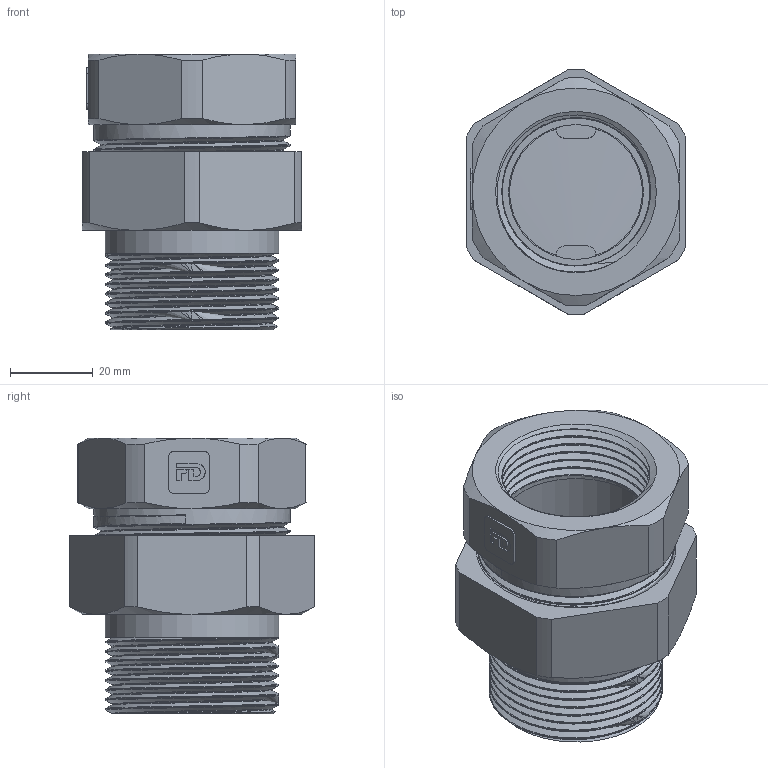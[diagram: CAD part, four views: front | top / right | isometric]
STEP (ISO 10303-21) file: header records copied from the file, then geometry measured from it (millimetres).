
FILE_DESCRIPTION(/* description */ (''),/* implementation_level */ '2;1');
FILE_NAME(/* name */ 'C:\Users\Doom\Desktop\Фадотех\Резьба\SN04 18.03.2020\SN04 18.03.2020.stp',/* time_stamp */ '2022-01-17T01:04:27+02:00',/* author */ ('Doom'),/* organization */ (''),/* preprocessor_version */ 'ST-DEVELOPER v18',/* originating_system */ 'Autodesk Inventor 2020',/* authorisation */ '');
FILE_SCHEMA (('AUTOMOTIVE_DESIGN { 1 0 10303 214 3 1 1 }'));
Length unit declared in the file: millimetre
Products named in the file (4): SC04 18.03.2020; 2060190D; SСОЗ-2; 2060190D_1
Assembly tree (3 placements, depth 2):
  SC04 18.03.2020
    2060190D
    SСОЗ-2
    2060190D_1
Bounding box: 53 x 59.19 x 66.5 mm (x, y, z)
Volume: 64376 mm3; surface area: 42586.7 mm2
Topology: 4 solids, 4 shells, 180 faces, 474 edges, 314 vertices
Faces by surface type: cylinder 64, plane 60, bspline 32, cone 24
Full cylindrical faces by diameter (mm): 32.5 x1, 34.5 x1, 35.576 x6, 37 x1, 38 x1, 38.476 x2, 39 x1, 41.9 x10, 42.5 x1, 44.375 x1, 44.376 x7, 44.5 x1, 47.419 x6
Entity records: 20257 total; most frequent: CARTESIAN_POINT 15991, ORIENTED_EDGE 948, DIRECTION 740, EDGE_CURVE 474, VERTEX_POINT 314, AXIS2_PLACEMENT_3D 282, EDGE_LOOP 200, ADVANCED_FACE 180
